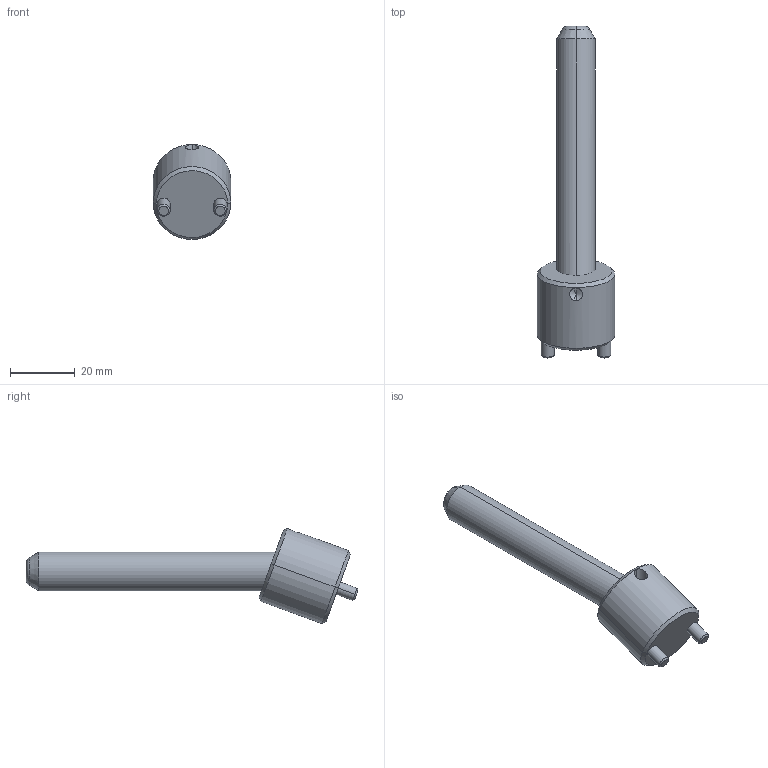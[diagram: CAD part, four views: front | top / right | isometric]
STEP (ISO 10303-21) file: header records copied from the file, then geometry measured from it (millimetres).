
FILE_DESCRIPTION(('CATIA V5 STEP Exchange'),'2;1');
FILE_NAME('C:\Users\Raffaele\Desktop\3D BOLEX\3D FILES CF BOLEX\19-INCLINED ASSEMBLY REF_CI\CI2012075.stp','2019-06-21T10:15:44+00:00',('none'),('none'),'CATIA Version 5 Release 20 GA (IN-10)','CATIA V5 STEP AP203','none');
FILE_SCHEMA(('CONFIG_CONTROL_DESIGN'));
Length unit declared in the file: millimetre
Products named in the file (1): CI2012075
Assembly tree (2 placements, depth 2):
  CI2012075
    #58
    #578
Bounding box: 24 x 102.68 x 29.39 mm (x, y, z)
Volume: 18200.6 mm3; surface area: 7014.3 mm2
Topology: 2 solids, 2 shells, 39 faces, 82 edges, 47 vertices
Faces by surface type: cone 14, cylinder 14, plane 7, torus 4
Entity records: 1464 total; most frequent: CARTESIAN_POINT 605, ORIENTED_EDGE 160, DIRECTION 145, EDGE_CURVE 80, AXIS2_PLACEMENT_3D 72, VERTEX_POINT 47, EDGE_LOOP 43, ADVANCED_FACE 39
